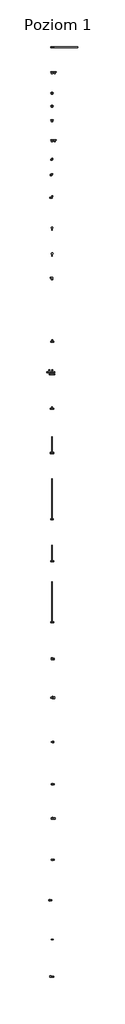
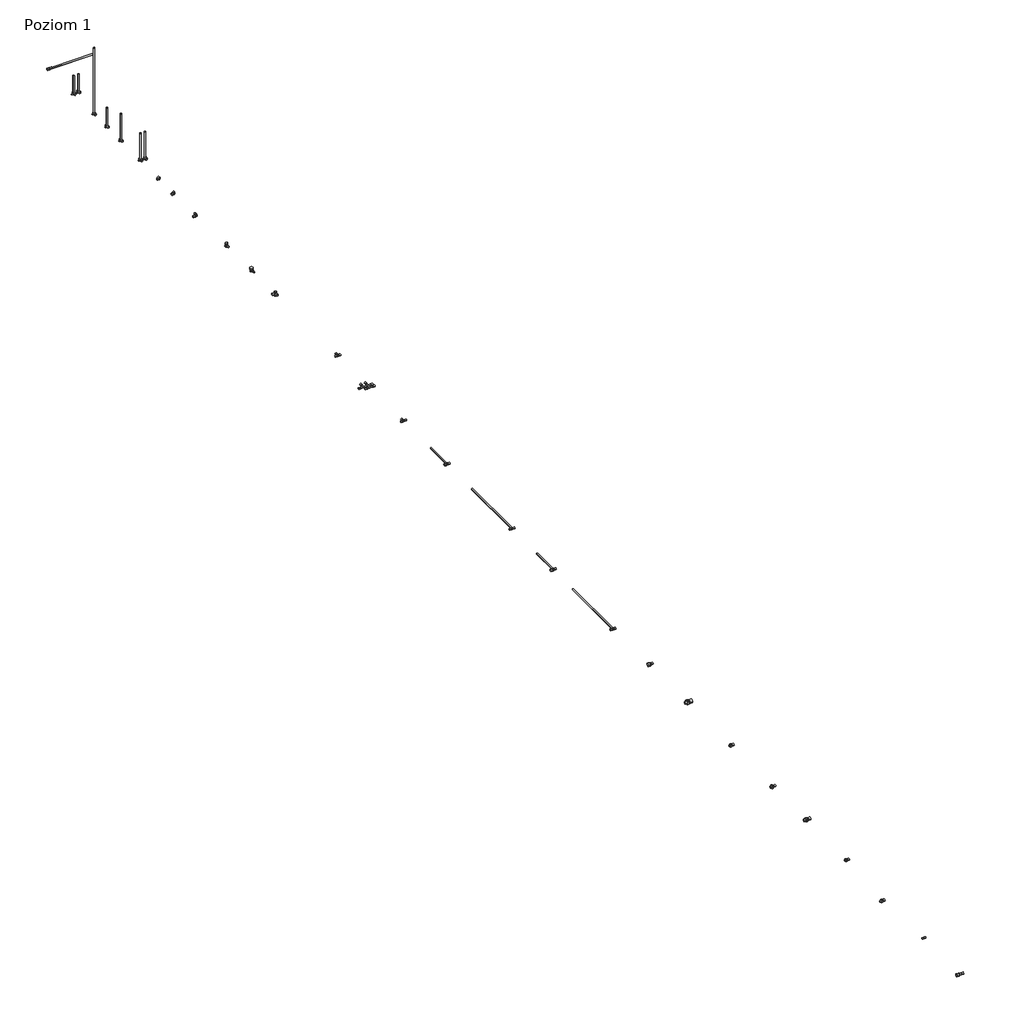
# One storey, incomplete: 28 pipe fittings.
"""IFC4 building model written with IfcOpenShell, lengths in millimetres."""

from ifc_helpers import new_model, si_unit, origin, place, context, project, spatial, transform, mapped, element, save
from components import pipe_fitting_61a2e5dc, pipe_fitting_dc970a08, pipe_fitting_42ea6e93, pipe_fitting_182be3bf, pipe_fitting_f2d528ed, pipe_fitting_952cee33, pipe_fitting_1cb3a0dc, pipe_fitting_cc8620ed, pipe_fitting_357c0489, pipe_fitting_6dfe967d, pipe_fitting_8ca0cf12, pipe_fitting_7f343e0d, pipe_fitting_8f11784b, pipe_fitting_cf206414, pipe_fitting_9f7363b6, pipe_fitting_d9613d3d, pipe_fitting_108f25d1, pipe_fitting_55ffaf2d, pipe_fitting_5e0c743a, pipe_fitting_fe5d6294, pipe_fitting_66cee5d1, pipe_fitting_d28a4c85, pipe_fitting_43363160, pipe_fitting_3e949ba1, pipe_fitting_3afa9204, pipe_fitting_7f02631f, pipe_fitting_cc780ec7, pipe_fitting_b0431b47

model = new_model("IFC4")

# Units and contexts
model_context = context("Model", 3, world=origin())
ifc_project = project(units=[si_unit("LENGTHUNIT", "METRE", prefix="MILLI")], contexts=[model_context])

# Site, building, storey
site = spatial("IfcSite", under=ifc_project)
building = spatial("IfcBuilding", under=site)
storey = spatial("IfcBuildingStorey", under=building, Name="Poziom 1", Elevation=0.0)

# Pipe fittings
placement = place(None, origin())
pipe_fitting_shape = pipe_fitting_61a2e5dc(model_context)
element("IfcPipeFitting", 1, ObjectType="KAN-therm Push złączka z gz 3-4 : KAN-therm Push złączka z gz 3-4", at=placement, inside=storey, context=model_context, shape_type="MappedRepresentation", body=[
    mapped(pipe_fitting_shape, transform((-5559.2621578, 289.2678331, 0.0), x_axis=(1.0, 0.0, 0.0), y_axis=(0.0, 1.0, 0.0), z_axis=(0.0, 0.0, 1.0))),
])
pipe_fitting_2_shape = pipe_fitting_dc970a08(model_context)
element("IfcPipeFitting", 2, ObjectType="KAN-therm Push element połaczeniowy do grzejnika : KAN-therm Push element połaczeniowy do grzejnika", at=placement, inside=storey, context=model_context, shape_type="MappedRepresentation", body=[
    mapped(pipe_fitting_2_shape, transform((-5513.07923, 15983.6459692, 0.0), x_axis=(1.0, 0.0, 0.0), y_axis=(0.0, 1.0, 0.0), z_axis=(0.0, 0.0, 1.0))),
])
pipe_fitting_3_shape = pipe_fitting_42ea6e93(model_context)
element("IfcPipeFitting", 3, ObjectType="KAN-therm Push kolanko z rurą Cu15 ze wspornikiem L=210 : KAN-therm Push kolanko z rurą Cu15 ze wspornikiem L=210", at=placement, inside=storey, context=model_context, shape_type="MappedRepresentation", body=[
    mapped(pipe_fitting_3_shape, transform((-5513.07923, 14902.6994536, 0.0), x_axis=(1.0, 0.0, 0.0), y_axis=(0.0, 1.0, 0.0), z_axis=(0.0, 0.0, 1.0))),
])
pipe_fitting_4_shape = pipe_fitting_182be3bf(model_context)
element("IfcPipeFitting", 4, ObjectType="KAN-therm Push kolanko z rurą Cu15 ze wspornikiem L=300 : KAN-therm Push kolanko z rurą Cu15 ze wspornikiem L=300", at=placement, inside=storey, context=model_context, shape_type="MappedRepresentation", body=[
    mapped(pipe_fitting_4_shape, transform((-5513.07923, 14640.5926182, 0.0), x_axis=(1.0, 0.0, 0.0), y_axis=(0.0, 1.0, 0.0), z_axis=(0.0, 0.0, 1.0))),
])
pipe_fitting_5_shape = pipe_fitting_f2d528ed(model_context)
element("IfcPipeFitting", 5, ObjectType="KAN-therm Push kolanko z rurą Cu15 ze wspornikiem L=750 : KAN-therm Push kolanko z rurą Cu15 ze wspornikiem L=750", at=placement, inside=storey, context=model_context, shape_type="MappedRepresentation", body=[
    mapped(pipe_fitting_5_shape, transform((-5513.07923, 15143.4664438, 0.0), x_axis=(1.0, 0.0, 0.0), y_axis=(0.0, 1.0, 0.0), z_axis=(0.0, 0.0, 1.0))),
])
pipe_fitting_6_shape = pipe_fitting_952cee33(model_context)
element("IfcPipeFitting", 6, ObjectType="KAN-therm Push kolanko zespolone ze wspornikiem L=200 : KAN-therm Push kolanko zespolone ze wspornikiem L=200", at=placement, inside=storey, context=model_context, shape_type="MappedRepresentation", body=[
    mapped(pipe_fitting_6_shape, transform((-5513.07923, 15525.2780522, 0.0), x_axis=(1.0, 0.0, 0.0), y_axis=(0.0, 1.0, 0.0), z_axis=(0.0, 0.0, 1.0))),
])
pipe_fitting_7_shape = pipe_fitting_1cb3a0dc(model_context)
element("IfcPipeFitting", 7, ObjectType="KAN-therm Push kolanko zespolone ze wspornikiem L=300 : KAN-therm Push kolanko zespolone ze wspornikiem L=300", at=placement, inside=storey, context=model_context, shape_type="MappedRepresentation", body=[
    mapped(pipe_fitting_7_shape, transform((-5513.07923, 14272.7497271, 0.0), x_axis=(1.0, 0.0, 0.0), y_axis=(0.0, 1.0, 0.0), z_axis=(0.0, 0.0, 1.0))),
])
pipe_fitting_8_shape = pipe_fitting_cc8620ed(model_context)
element("IfcPipeFitting", 8, ObjectType="KAN-therm Push kolano gz 1-2 : KAN-therm Push kolano gz 1-2", at=placement, inside=storey, context=model_context, shape_type="MappedRepresentation", body=[
    mapped(pipe_fitting_8_shape, transform((-5513.07923, 13630.1887277, 0.0), x_axis=(1.0, 0.0, 0.0), y_axis=(0.0, 1.0, 0.0), z_axis=(0.0, 0.0, 1.0))),
])
pipe_fitting_9_shape = pipe_fitting_357c0489(model_context)
element("IfcPipeFitting", 9, ObjectType="KAN-therm Push kolano PPSU : KAN-therm Push kolano PPSU", at=placement, inside=storey, context=model_context, shape_type="MappedRepresentation", body=[
    mapped(pipe_fitting_9_shape, transform((-5513.07923, 13211.1272062, 0.0), x_axis=(1.0, 0.0, 0.0), y_axis=(0.0, 1.0, 0.0), z_axis=(0.0, 0.0, 1.0))),
])
pipe_fitting_10_shape = pipe_fitting_6dfe967d(model_context)
element("IfcPipeFitting", 10, ObjectType="KAN-therm Push kolano : KAN-therm Push kolano", at=placement, inside=storey, context=model_context, shape_type="MappedRepresentation", body=[
    mapped(pipe_fitting_10_shape, transform((-5513.07923, 13909.5630753, 0.0), x_axis=(1.0, 0.0, 0.0), y_axis=(0.0, 1.0, 0.0), z_axis=(0.0, 0.0, 1.0))),
])
pipe_fitting_11_shape = pipe_fitting_8ca0cf12(model_context)
element("IfcPipeFitting", 11, ObjectType="KAN-therm Push łącznik PPSU : KAN-therm Push łącznik PPSU", at=placement, inside=storey, context=model_context, shape_type="MappedRepresentation", body=[
    mapped(pipe_fitting_11_shape, transform((-5513.07923, -1115.1410816, 0.0), x_axis=(1.0, 0.0, 0.0), y_axis=(0.0, 1.0, 0.0), z_axis=(0.0, 0.0, 1.0))),
])
pipe_fitting_12_shape = pipe_fitting_7f343e0d(model_context)
element("IfcPipeFitting", 12, ObjectType="KAN-therm Push łącznik : KAN-therm Push łącznik", at=placement, inside=storey, context=model_context, shape_type="MappedRepresentation", body=[
    mapped(pipe_fitting_12_shape, transform((-5513.07923, -432.5512739, 0.0), x_axis=(1.0, 0.0, 0.0), y_axis=(0.0, 1.0, 0.0), z_axis=(0.0, 0.0, 1.0))),
])
pipe_fitting_13_shape = pipe_fitting_8f11784b(model_context)
element("IfcPipeFitting", 13, ObjectType="KAN-therm Push podejście do baterii PPSU : KAN-therm Push podejście do baterii PPSU", at=placement, inside=storey, context=model_context, shape_type="MappedRepresentation", body=[
    mapped(pipe_fitting_13_shape, transform((-5513.07923, 12186.7545984, 0.0), x_axis=(1.0, 0.0, 0.0), y_axis=(0.0, 1.0, 0.0), z_axis=(0.0, 0.0, 1.0))),
])
pipe_fitting_14_shape = pipe_fitting_cf206414(model_context)
element("IfcPipeFitting", 14, ObjectType="KAN-therm Push podejście do baterii : KAN-therm Push podejście do baterii", at=placement, inside=storey, context=model_context, shape_type="MappedRepresentation", body=[
    mapped(pipe_fitting_14_shape, transform((-5513.07923, 12661.6909893, 0.0), x_axis=(1.0, 0.0, 0.0), y_axis=(0.0, 1.0, 0.0), z_axis=(0.0, 0.0, 1.0))),
])
pipe_fitting_15_shape = pipe_fitting_9f7363b6(model_context)
element("IfcPipeFitting", 15, ObjectType="KAN-therm Push podejście kątowe do baterii : KAN-therm Push podejście kątowe do baterii", at=placement, inside=storey, context=model_context, shape_type="MappedRepresentation", body=[
    mapped(pipe_fitting_15_shape, transform((-5513.07923, 11739.7556422, 0.0), x_axis=(1.0, 0.0, 0.0), y_axis=(0.0, 1.0, 0.0), z_axis=(0.0, 0.0, 1.0))),
])
pipe_fitting_16_shape = pipe_fitting_d9613d3d(model_context)
element("IfcPipeFitting", 16, ObjectType="KAN-therm Push trójnik mijankowy : KAN-therm Push trójnik mijankowy", at=placement, inside=storey, context=model_context, shape_type="MappedRepresentation", body=[
    mapped(pipe_fitting_16_shape, transform((-5513.07923, 9965.7285349, 0.0), x_axis=(1.0, 0.0, 0.0), y_axis=(0.0, 1.0, 0.0), z_axis=(0.0, 0.0, 1.0))),
])
pipe_fitting_17_shape = pipe_fitting_108f25d1(model_context)
element("IfcPipeFitting", 17, ObjectType="KAN-therm Push trójnik PPSU : KAN-therm Push trójnik PPSU", at=placement, inside=storey, context=model_context, shape_type="MappedRepresentation", body=[
    mapped(pipe_fitting_17_shape, transform((-5513.07923, 9332.4800137, 0.0), x_axis=(1.0, 0.0, 0.0), y_axis=(0.0, 1.0, 0.0), z_axis=(0.0, 0.0, 1.0))),
])
pipe_fitting_18_shape = pipe_fitting_55ffaf2d(model_context)
element("IfcPipeFitting", 18, ObjectType="KAN-therm Push trójnik redukcyjny z rurą Cu15 L=300 : KAN-therm Push trójnik redukcyjny z rurą Cu15 L=300", at=placement, inside=storey, context=model_context, shape_type="MappedRepresentation", body=[
    mapped(pipe_fitting_18_shape, transform((-5513.07923, 8517.6381665, 0.0), x_axis=(1.0, 0.0, 0.0), y_axis=(0.0, 1.0, 0.0), z_axis=(0.0, 0.0, 1.0))),
])
pipe_fitting_19_shape = pipe_fitting_5e0c743a(model_context)
element("IfcPipeFitting", 19, ObjectType="KAN-therm Push trójnik redukcyjny z rurą Cu15 L=750 : KAN-therm Push trójnik redukcyjny z rurą Cu15 L=750", at=placement, inside=storey, context=model_context, shape_type="MappedRepresentation", body=[
    mapped(pipe_fitting_19_shape, transform((-5513.07923, 7297.7035153, 0.0), x_axis=(1.0, 0.0, 0.0), y_axis=(0.0, 1.0, 0.0), z_axis=(0.0, 0.0, 1.0))),
])
pipe_fitting_20_shape = pipe_fitting_fe5d6294(model_context)
element("IfcPipeFitting", 20, ObjectType="KAN-therm Push trójnik z rurą Cu15 L=300 : KAN-therm Push trójnik z rurą Cu15 L=300", at=placement, inside=storey, context=model_context, shape_type="MappedRepresentation", body=[
    mapped(pipe_fitting_20_shape, transform((-5513.07923, 6524.7678203, 0.0), x_axis=(1.0, 0.0, 0.0), y_axis=(0.0, 1.0, 0.0), z_axis=(0.0, 0.0, 1.0))),
])
pipe_fitting_21_shape = pipe_fitting_66cee5d1(model_context)
element("IfcPipeFitting", 21, ObjectType="KAN-therm Push trójnik z rurą Cu15 L=750 : KAN-therm Push trójnik z rurą Cu15 L=750", at=placement, inside=storey, context=model_context, shape_type="MappedRepresentation", body=[
    mapped(pipe_fitting_21_shape, transform((-5513.07923, 5402.6141907, 0.0), x_axis=(1.0, 0.0, 0.0), y_axis=(0.0, 1.0, 0.0), z_axis=(0.0, 0.0, 1.0))),
])
pipe_fitting_22_shape = pipe_fitting_d28a4c85(model_context)
element("IfcPipeFitting", 22, ObjectType="KAN-therm Push trójnik : KAN-therm Push trójnik", at=placement, inside=storey, context=model_context, shape_type="MappedRepresentation", body=[
    mapped(pipe_fitting_22_shape, transform((-5513.07923, 10566.3833823, 0.0), x_axis=(1.0, 0.0, 0.0), y_axis=(0.0, 1.0, 0.0), z_axis=(0.0, 0.0, 1.0))),
])
pipe_fitting_23_shape = pipe_fitting_43363160(model_context)
element("IfcPipeFitting", 23, ObjectType="KAN-therm Push złączka PPSU z gw : KAN-therm Push złączka PPSU z gw", at=placement, inside=storey, context=model_context, shape_type="MappedRepresentation", body=[
    mapped(pipe_fitting_23_shape, transform((-5513.07923, 4730.0245132, 0.0), x_axis=(1.0, 0.0, 0.0), y_axis=(0.0, 1.0, 0.0), z_axis=(0.0, 0.0, 1.0))),
])
pipe_fitting_24_shape = pipe_fitting_3e949ba1(model_context)
element("IfcPipeFitting", 24, ObjectType="KAN-therm Push złączka z gw 1 : KAN-therm Push złączka z gw 1", at=placement, inside=storey, context=model_context, shape_type="MappedRepresentation", body=[
    mapped(pipe_fitting_24_shape, transform((-5513.07923, 4016.051266, 0.0), x_axis=(1.0, 0.0, 0.0), y_axis=(0.0, 1.0, 0.0), z_axis=(0.0, 0.0, 1.0))),
])
pipe_fitting_25_shape = pipe_fitting_3afa9204(model_context)
element("IfcPipeFitting", 25, ObjectType="KAN-therm Push złączka z gw 1-2 : KAN-therm Push złączka z gw 1-2", at=placement, inside=storey, context=model_context, shape_type="MappedRepresentation", body=[
    mapped(pipe_fitting_25_shape, transform((-5513.07923, 3200.0818407, 0.0), x_axis=(1.0, 0.0, 0.0), y_axis=(0.0, 1.0, 0.0), z_axis=(0.0, 0.0, 1.0))),
])
pipe_fitting_26_shape = pipe_fitting_7f02631f(model_context)
element("IfcPipeFitting", 26, ObjectType="KAN-therm Push złączka z gw 3-4 : KAN-therm Push złączka z gw 3-4", at=placement, inside=storey, context=model_context, shape_type="MappedRepresentation", body=[
    mapped(pipe_fitting_26_shape, transform((-5513.07923, 2423.3417147, 0.0), x_axis=(1.0, 0.0, 0.0), y_axis=(0.0, 1.0, 0.0), z_axis=(0.0, 0.0, 1.0))),
])
pipe_fitting_27_shape = pipe_fitting_cc780ec7(model_context)
element("IfcPipeFitting", 27, ObjectType="KAN-therm Push złączka z gz 1 : KAN-therm Push złączka z gz 1", at=placement, inside=storey, context=model_context, shape_type="MappedRepresentation", body=[
    mapped(pipe_fitting_27_shape, transform((-5513.07923, 1795.672926, 0.0), x_axis=(1.0, 0.0, 0.0), y_axis=(0.0, 1.0, 0.0), z_axis=(0.0, 0.0, 1.0))),
])
pipe_fitting_28_shape = pipe_fitting_b0431b47(model_context)
element("IfcPipeFitting", 28, ObjectType="KAN-therm Push złączka z gz 1-2 : KAN-therm Push złączka z gz 1-2", at=placement, inside=storey, context=model_context, shape_type="MappedRepresentation", body=[
    mapped(pipe_fitting_28_shape, transform((-5513.07923, 1034.6245197, 0.0), x_axis=(1.0, 0.0, 0.0), y_axis=(0.0, 1.0, 0.0), z_axis=(0.0, 0.0, 1.0))),
])

save(model, "model.ifc")
